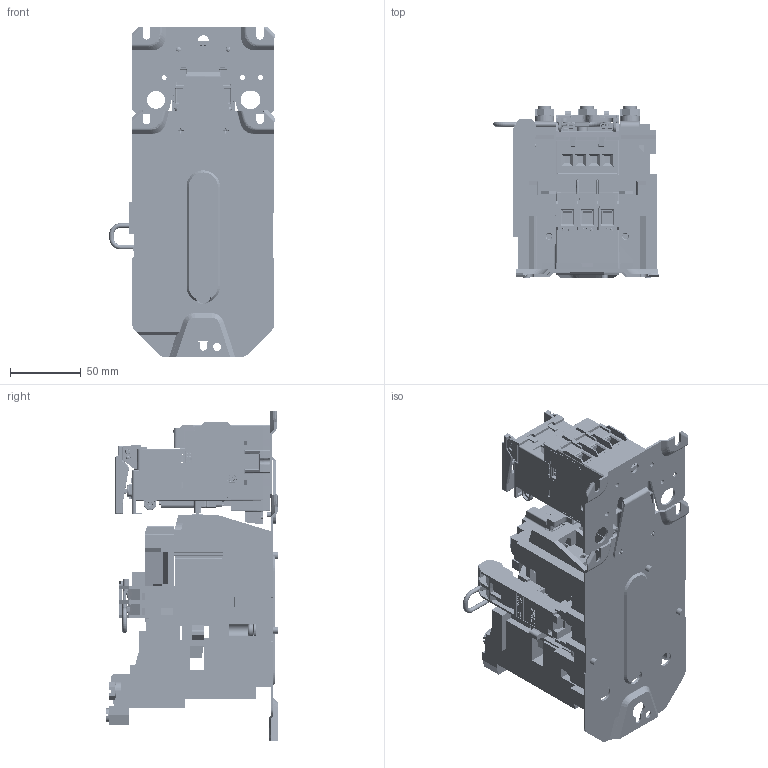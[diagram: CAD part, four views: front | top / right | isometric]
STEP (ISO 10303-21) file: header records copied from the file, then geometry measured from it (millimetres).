
FILE_DESCRIPTION((''),'2;1');
FILE_NAME('509-COD-E1_ASM','2010-09-29T',('lequenti'),('Rockwell Automation'),'PRO/ENGINEER BY PARAMETRIC TECHNOLOGY CORPORATION, 2005110','PRO/ENGINEER BY PARAMETRIC TECHNOLOGY CORPORATION, 2005110','');
FILE_SCHEMA(('CONFIG_CONTROL_DESIGN'));
Products named in the file (112): 40420-014; 10000090579; 28020-652; 10000062493; 10000062494; 10000062495; 10000062496; 10000062498; 10000062497; 10000083849; 10000083883; 40420-300; 40422-468_ASM; 28169-101-26; 40495-40495003; CD-40495-300; CD-40495-304; 40495-40495310; X-379256; 40495-40495458_ASM; 10000081853; 10000083875; 40481-X316012; 40392-M6289; 10000084160; 40751-059-02; 40751-060-02; 40751-061; 40751-069; 40751-94292801; 40751-94490280; 40751-4079305001; 40751-94489601; 40751-94447141; 40751-94293301; 40751-24707007; 40751-94445252; 40751-94445860; 40751-9445256; 40751-94384384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
Assembly tree (150 placements, depth 7):
  509-COD-E1_ASM
    40420-014
    10000090579
    28020-652  x2
    40422-468_ASM
      10000062493
      10000062494
      10000062495
      10000062496
      10000062498  x3
      10000062497
      10000083849
      10000083883  x3
      40420-300
    28169-101-26  x3
    40495-40495458_ASM
      40495-40495003
      CD-40495-300
      CD-40495-304
      40495-40495310
      X-379256  x2
    10000081853  x2
    10000083875
    40481-X316012  x3
    40392-M6289  x6
    10000084160
    40751-459_ASM
      40751-382_ASM
        40751-059-02
        40751-060-02
        40751-061
        40751-070_ASM
          40751-069
          40751-94292801
          40751-94490280  x2
          40751-4079305001
          40751-94489601
          40751-94447141
          40751-94293301
          40751-24707007  x3
          40751-94445252
          40751-94445860  x2
          40751-9445256
          40751-94384384
          40751-94384496
          40751-94292801MOD
        40751-039
        40794-4500600301
        40751-46006002
        40751-042  x3
        40793-2216404201  x3
        40751-94294901  x3
        40751-94801301  x4
      40751-367-51_ASM
        40751-050SCREW_ASM
          40751-049
          40751-94293201
          40751-94292001_ASM
            40751-SCRBLK2POLE  x2
          40751-24760127_ASM
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Bounding box: 116.69 x 121.89 x 233.16 mm (x, y, z)
Volume: 952175.7 mm3; surface area: 414237.4 mm2
Topology: 132 solids, 132 shells, 15380 faces, 41511 edges, 26624 vertices
Faces by surface type: plane 10715, cylinder 3258, bspline 422, cone 400, sphere 295, torus 286, extrusion 4
Entity records: 476770 total; most frequent: CARTESIAN_POINT 116773, ORIENTED_EDGE 77356, DIRECTION 69531, EDGE_CURVE 38678, VECTOR 30675, LINE 30671, VERTEX_POINT 24856, AXIS2_PLACEMENT_3D 19428
